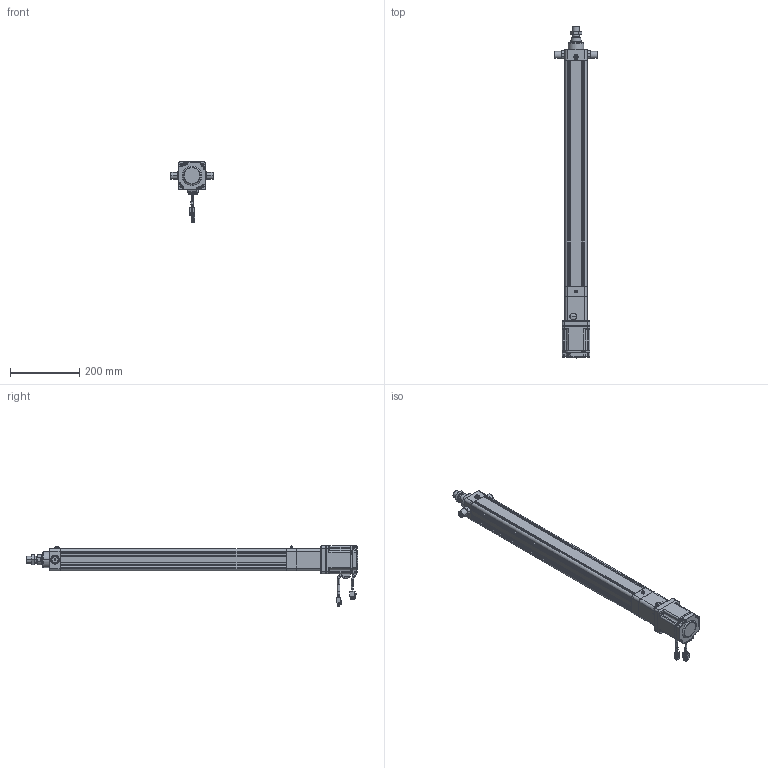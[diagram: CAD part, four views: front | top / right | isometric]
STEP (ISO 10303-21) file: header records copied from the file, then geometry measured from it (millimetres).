
FILE_DESCRIPTION((''),'2;1');
FILE_NAME('HE50-D-100-X1_ASM','2020-05-21T',('ASUS20200'),(''),'CREO PARAMETRIC BY PTC INC, 2014190','CREO PARAMETRIC BY PTC INC, 2014190','');
FILE_SCHEMA(('CONFIG_CONTROL_DESIGN'));
Length unit declared in the file: millimetre
Products named in the file (26): HE50-D-P-001-X1; HE50-D-P-002-X1; HE50-D-P-003-X1; HE50-D-009-X1; HE50-D-010-X1; 6301ZZ; LGLM-M8-22; SKT-16; SLM-01; YZ-M6X1; _MHMF082L1A2; _CABLE_MOTOR_BOTTOM_05; _CABLE_MOTOR_TOP_05; _MOTOR_CONNECTOR_2; _CABLE_BRAKE_BOTTOM_05; _CABLE_BRAKE_TOP_05; _MHMF_CONNECTOR_9_PIN_A6; MHMF082L1A2M2_1_ASM; M6X16; JX6X6X20; JDB303820; HE50-TC; HE50-D-P-005-X1; HE50-D-P-004-X1; HE50-D-P-008-X1; HE50-D-100-X1_ASM
Assembly tree (36 placements, depth 3):
  HE50-D-100-X1_ASM
    HE50-D-P-001-X1
    HE50-D-P-002-X1
    HE50-D-P-003-X1
    HE50-D-009-X1
    HE50-D-010-X1
    6301ZZ
    LGLM-M8-22  x8
    SKT-16
    SLM-01
    YZ-M6X1
    MHMF082L1A2M2_1_ASM
      _MHMF082L1A2
      _CABLE_MOTOR_BOTTOM_05
      _CABLE_MOTOR_TOP_05
      _MOTOR_CONNECTOR_2
      _CABLE_BRAKE_BOTTOM_05
      _CABLE_BRAKE_TOP_05
      _MHMF_CONNECTOR_9_PIN_A6
    M6X16  x4
    JX6X6X20
    JDB303820
    HE50-TC  x2
    HE50-D-P-005-X1
    HE50-D-P-004-X1
    HE50-D-P-008-X1
Bounding box: 124 x 958.4 x 173.65 mm (x, y, z)
Volume: 2199188.9 mm3; surface area: 628148 mm2
Topology: 35 solids, 65 shells, 2585 faces, 6301 edges, 3913 vertices
Faces by surface type: plane 1098, cylinder 749, cone 589, torus 102, sphere 44, bspline 3
Entity records: 67201 total; most frequent: CARTESIAN_POINT 12892, DIRECTION 11855, ORIENTED_EDGE 10734, EDGE_CURVE 5423, AXIS2_PLACEMENT_3D 4420, VERTEX_POINT 3397, VECTOR 3015, LINE 3015
